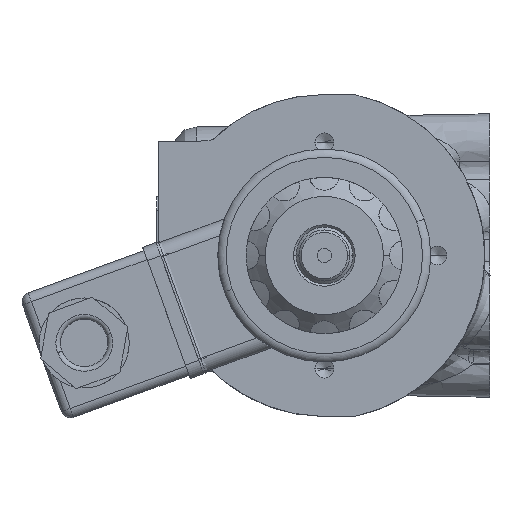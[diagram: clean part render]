
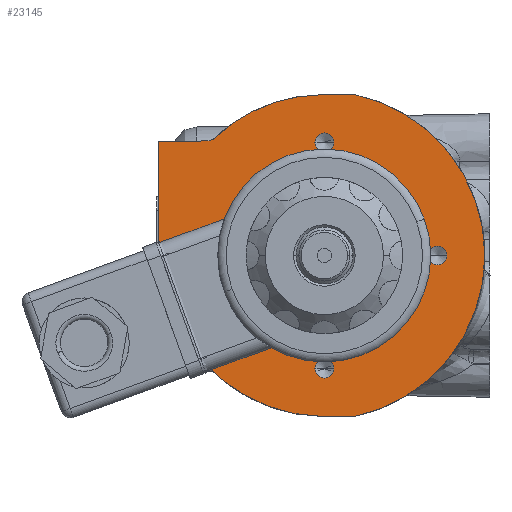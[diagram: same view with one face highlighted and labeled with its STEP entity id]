
A CAD part, left-side view. The second image highlights one B-rep face of the part: STEP entity #23145.
In plain terms, the highlighted planar face has unit normal (-1, 0, 0).
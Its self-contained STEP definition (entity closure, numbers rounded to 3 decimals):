
#5128=DIRECTION('',(0.,0.,1.));
#5129=VECTOR('',#5128,39.787);
#5130=CARTESIAN_POINT('',(-53.,35.,-15.744));
#5131=LINE('',#5130,#5129);
#5293=CARTESIAN_POINT('',(-53.,-5.814,32.106));
#5294=DIRECTION('',(1.,0.,0.));
#5295=DIRECTION('',(0.,0.017,1.));
#5296=AXIS2_PLACEMENT_3D('',#5293,#5294,#5295);
#5309=CARTESIAN_POINT('',(-53.,0.,-23.9));
#5310=DIRECTION('',(-1.,0.,0.));
#5311=DIRECTION('',(0.,1.,0.));
#5312=AXIS2_PLACEMENT_3D('',#5309,#5310,#5311);
#5317=CARTESIAN_POINT('',(-53.,0.,-23.9));
#5318=DIRECTION('',(-1.,0.,0.));
#5319=DIRECTION('',(0.,-1.,0.));
#5320=AXIS2_PLACEMENT_3D('',#5317,#5318,#5319);
#5325=CARTESIAN_POINT('',(-53.,-23.9,0.));
#5326=DIRECTION('',(-1.,0.,0.));
#5327=DIRECTION('',(0.,1.,0.));
#5328=AXIS2_PLACEMENT_3D('',#5325,#5326,#5327);
#5333=CARTESIAN_POINT('',(-53.,-23.9,0.));
#5334=DIRECTION('',(-1.,0.,0.));
#5335=DIRECTION('',(0.,-1.,0.));
#5336=AXIS2_PLACEMENT_3D('',#5333,#5334,#5335);
#5341=CARTESIAN_POINT('',(-53.,0.,23.9));
#5342=DIRECTION('',(-1.,0.,0.));
#5343=DIRECTION('',(0.,1.,0.));
#5344=AXIS2_PLACEMENT_3D('',#5341,#5342,#5343);
#5349=CARTESIAN_POINT('',(-53.,0.,23.9));
#5350=DIRECTION('',(-1.,0.,0.));
#5351=DIRECTION('',(0.,-1.,0.));
#5352=AXIS2_PLACEMENT_3D('',#5349,#5350,#5351);
#5357=CARTESIAN_POINT('',(-53.,0.,0.));
#5358=DIRECTION('',(-1.,0.,0.));
#5359=DIRECTION('',(0.,-1.,0.));
#5360=AXIS2_PLACEMENT_3D('',#5357,#5358,#5359);
#5365=CARTESIAN_POINT('',(-53.,0.,0.));
#5366=DIRECTION('',(-1.,0.,0.));
#5367=DIRECTION('',(0.,1.,0.));
#5368=AXIS2_PLACEMENT_3D('',#5365,#5366,#5367);
#5373=DIRECTION('',(0.,1.,0.017));
#5374=VECTOR('',#5373,3.755);
#5375=CARTESIAN_POINT('',(-53.,31.246,-15.809));
#5376=LINE('',#5375,#5374);
#5650=CARTESIAN_POINT('',(-53.,31.281,-17.799));
#5651=DIRECTION('',(-1.,0.,0.));
#5652=DIRECTION('',(0.,-0.869,0.495));
#5653=AXIS2_PLACEMENT_3D('',#5650,#5651,#5652);
#5666=CARTESIAN_POINT('',(-53.,0.,0.));
#5667=DIRECTION('',(-1.,0.,0.));
#5668=DIRECTION('',(0.,0.017,1.));
#5669=AXIS2_PLACEMENT_3D('',#5666,#5667,#5668);
#5720=CARTESIAN_POINT('',(-53.,0.,0.));
#5721=DIRECTION('',(-1.,0.,0.));
#5722=DIRECTION('',(0.,0.869,-0.495));
#5723=AXIS2_PLACEMENT_3D('',#5720,#5721,#5722);
#5743=CARTESIAN_POINT('',(-53.,24.663,26.224));
#5744=DIRECTION('',(1.,0.,0.));
#5745=DIRECTION('',(0.,-0.685,-0.728));
#5746=AXIS2_PLACEMENT_3D('',#5743,#5744,#5745);
#5751=DIRECTION('',(0.,1.,-0.017));
#5752=VECTOR('',#5751,10.373);
#5753=CARTESIAN_POINT('',(-53.,24.628,24.225));
#5754=LINE('',#5753,#5752);
#5887=DIRECTION('',(0.,1.,-0.017));
#5888=VECTOR('',#5887,6.373);
#5889=CARTESIAN_POINT('',(-53.,-5.779,34.106));
#5890=LINE('',#5889,#5888);
#5914=DIRECTION('',(0.,-1.,-0.017));
#5915=VECTOR('',#5914,6.373);
#5916=CARTESIAN_POINT('',(-53.,0.593,-33.995));
#5917=LINE('',#5916,#5915);
#5948=CARTESIAN_POINT('',(-53.,-5.814,-32.106));
#5949=DIRECTION('',(1.,0.,0.));
#5950=DIRECTION('',(0.,-0.205,-0.979));
#5951=AXIS2_PLACEMENT_3D('',#5948,#5949,#5950);
#5964=CARTESIAN_POINT('',(-53.,0.896,0.));
#5965=DIRECTION('',(-1.,0.,0.));
#5966=DIRECTION('',(0.,-0.205,-0.979));
#5967=AXIS2_PLACEMENT_3D('',#5964,#5965,#5966);
#16256=CARTESIAN_POINT('',(-53.,31.246,-15.809));
#16257=CARTESIAN_POINT('',(-53.,35.,-15.744));
#16258=VERTEX_POINT('',#16256);
#16259=VERTEX_POINT('',#16257);
#16262=CARTESIAN_POINT('',(-53.,24.628,24.225));
#16263=CARTESIAN_POINT('',(-53.,35.,24.044));
#16264=VERTEX_POINT('',#16262);
#16265=VERTEX_POINT('',#16263);
#16350=CARTESIAN_POINT('',(-53.,2.,-23.9));
#16351=CARTESIAN_POINT('',(-53.,-2.,-23.9));
#16352=VERTEX_POINT('',#16350);
#16353=VERTEX_POINT('',#16351);
#16386=CARTESIAN_POINT('',(-53.,-21.9,0.));
#16387=CARTESIAN_POINT('',(-53.,-25.9,0.));
#16388=VERTEX_POINT('',#16386);
#16389=VERTEX_POINT('',#16387);
#16390=CARTESIAN_POINT('',(-53.,2.,23.9));
#16391=CARTESIAN_POINT('',(-53.,-2.,23.9));
#16392=VERTEX_POINT('',#16390);
#16393=VERTEX_POINT('',#16391);
#16394=CARTESIAN_POINT('',(-53.,0.593,-33.995));
#16395=CARTESIAN_POINT('',(-53.,-5.779,-34.106));
#16396=VERTEX_POINT('',#16394);
#16397=VERTEX_POINT('',#16395);
#16398=CARTESIAN_POINT('',(-53.,-6.223,-34.064));
#16399=CARTESIAN_POINT('',(-53.,-6.223,34.064));
#16400=VERTEX_POINT('',#16398);
#16401=VERTEX_POINT('',#16399);
#16402=CARTESIAN_POINT('',(-53.,-5.779,34.106));
#16403=CARTESIAN_POINT('',(-53.,0.593,33.995));
#16404=VERTEX_POINT('',#16402);
#16405=VERTEX_POINT('',#16403);
#16406=CARTESIAN_POINT('',(-53.,23.293,24.767));
#16407=VERTEX_POINT('',#16406);
#16408=CARTESIAN_POINT('',(-53.,29.551,-16.815));
#16409=VERTEX_POINT('',#16408);
#17065=CARTESIAN_POINT('',(-53.,-13.,0.));
#17067=VERTEX_POINT('',#17065);
#17069=CARTESIAN_POINT('',(-53.,13.,0.));
#17071=VERTEX_POINT('',#17069);
#23092=CARTESIAN_POINT('',(-53.,-35.,-40.928));
#23093=DIRECTION('',(1.,0.,0.));
#23094=DIRECTION('',(0.,1.,0.));
#23095=AXIS2_PLACEMENT_3D('',#23092,#23093,#23094);
#23096=PLANE('',#23095);
#23098=ORIENTED_EDGE('',*,*,#23097,.T.);
#23099=ORIENTED_EDGE('',*,*,#22861,.T.);
#23101=ORIENTED_EDGE('',*,*,#23100,.F.);
#23103=ORIENTED_EDGE('',*,*,#23102,.F.);
#23105=ORIENTED_EDGE('',*,*,#23104,.F.);
#23107=ORIENTED_EDGE('',*,*,#23106,.F.);
#23108=ORIENTED_EDGE('',*,*,#23082,.T.);
#23110=ORIENTED_EDGE('',*,*,#23109,.F.);
#23112=ORIENTED_EDGE('',*,*,#23111,.T.);
#23114=ORIENTED_EDGE('',*,*,#23113,.F.);
#23116=ORIENTED_EDGE('',*,*,#23115,.F.);
#23118=ORIENTED_EDGE('',*,*,#23117,.T.);
#23119=EDGE_LOOP('',(#23098,#23099,#23101,#23103,#23105,#23107,#23108,#23110,
#23112,#23114,#23116,#23118));
#23120=FACE_OUTER_BOUND('',#23119,.F.);
#23122=ORIENTED_EDGE('',*,*,#23121,.T.);
#23124=ORIENTED_EDGE('',*,*,#23123,.T.);
#23125=EDGE_LOOP('',(#23122,#23124));
#23126=FACE_BOUND('',#23125,.F.);
#23128=ORIENTED_EDGE('',*,*,#23127,.T.);
#23130=ORIENTED_EDGE('',*,*,#23129,.T.);
#23131=EDGE_LOOP('',(#23128,#23130));
#23132=FACE_BOUND('',#23131,.F.);
#23134=ORIENTED_EDGE('',*,*,#23133,.T.);
#23136=ORIENTED_EDGE('',*,*,#23135,.T.);
#23137=EDGE_LOOP('',(#23134,#23136));
#23138=FACE_BOUND('',#23137,.F.);
#23140=ORIENTED_EDGE('',*,*,#23139,.T.);
#23142=ORIENTED_EDGE('',*,*,#23141,.T.);
#23143=EDGE_LOOP('',(#23140,#23142));
#23144=FACE_BOUND('',#23143,.F.);
#5297=CIRCLE('',#5296,2.);
#5313=CIRCLE('',#5312,2.);
#5321=CIRCLE('',#5320,2.);
#5329=CIRCLE('',#5328,2.);
#5337=CIRCLE('',#5336,2.);
#5345=CIRCLE('',#5344,2.);
#5353=CIRCLE('',#5352,2.);
#5361=CIRCLE('',#5360,13.);
#5369=CIRCLE('',#5368,13.);
#5654=CIRCLE('',#5653,1.99);
#5670=CIRCLE('',#5669,34.);
#5724=CIRCLE('',#5723,34.);
#5747=CIRCLE('',#5746,2.);
#5952=CIRCLE('',#5951,2.);
#5968=CIRCLE('',#5967,34.8);
#22861=EDGE_CURVE('',#16259,#16265,#5131,.T.);
#23082=EDGE_CURVE('',#16404,#16401,#5297,.T.);
#23097=EDGE_CURVE('',#16258,#16259,#5376,.T.);
#23100=EDGE_CURVE('',#16264,#16265,#5754,.T.);
#23102=EDGE_CURVE('',#16407,#16264,#5747,.T.);
#23104=EDGE_CURVE('',#16405,#16407,#5670,.T.);
#23106=EDGE_CURVE('',#16404,#16405,#5890,.T.);
#23109=EDGE_CURVE('',#16400,#16401,#5968,.T.);
#23111=EDGE_CURVE('',#16400,#16397,#5952,.T.);
#23113=EDGE_CURVE('',#16396,#16397,#5917,.T.);
#23115=EDGE_CURVE('',#16409,#16396,#5724,.T.);
#23117=EDGE_CURVE('',#16409,#16258,#5654,.T.);
#23121=EDGE_CURVE('',#16352,#16353,#5313,.T.);
#23123=EDGE_CURVE('',#16353,#16352,#5321,.T.);
#23127=EDGE_CURVE('',#16388,#16389,#5329,.T.);
#23129=EDGE_CURVE('',#16389,#16388,#5337,.T.);
#23133=EDGE_CURVE('',#16392,#16393,#5345,.T.);
#23135=EDGE_CURVE('',#16393,#16392,#5353,.T.);
#23139=EDGE_CURVE('',#17067,#17071,#5361,.T.);
#23141=EDGE_CURVE('',#17071,#17067,#5369,.T.);
#23145=ADVANCED_FACE('',(#23120,#23126,#23132,#23138,#23144),#23096,.F.);
